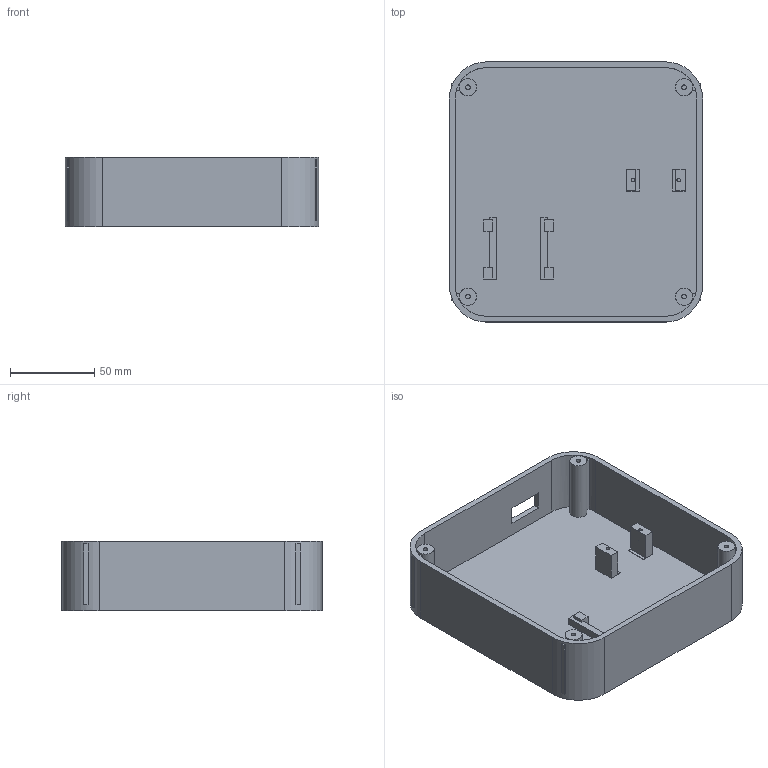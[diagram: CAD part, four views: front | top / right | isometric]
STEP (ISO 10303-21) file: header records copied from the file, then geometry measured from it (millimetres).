
FILE_DESCRIPTION(('Open CASCADE Model'),'2;1');
FILE_NAME('Open CASCADE Shape Model','2026-11-24T20:33:34',('Author'),( 'Open CASCADE'),'Open CASCADE STEP processor 7.8','Open CASCADE 7.8' ,'Unknown');
FILE_SCHEMA(('AUTOMOTIVE_DESIGN { 1 0 10303 214 1 1 1 1 }'));
Length unit declared in the file: millimetre
Products named in the file (1): Open CASCADE STEP translator 7.8 1
Bounding box: 150 x 154 x 41 mm (x, y, z)
Volume: 168934.9 mm3; surface area: 95952.9 mm2
Topology: 1 solids, 1 shells, 139 faces, 354 edges, 236 vertices
Faces by surface type: plane 121, cylinder 18
Full cylindrical faces by diameter (mm): 2.1 x2, 2.76 x4, 10.2 x4
Entity records: 8808 total; most frequent: CARTESIAN_POINT 1486, DIRECTION 1394, LINE 942, VECTOR 942, ORIENTED_EDGE 708, PCURVE 708, DEFINITIONAL_REPRESENTATION 708, EDGE_CURVE 354
